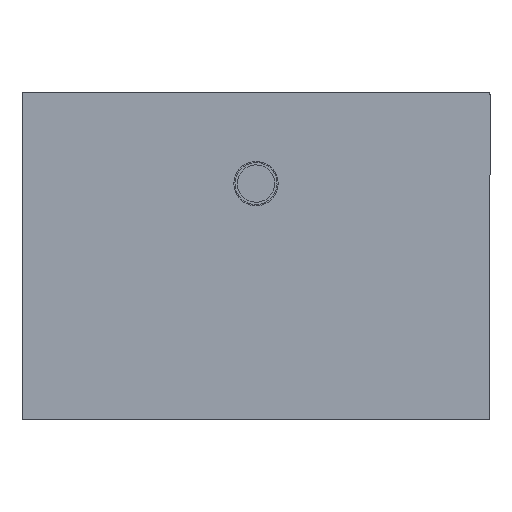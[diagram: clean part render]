
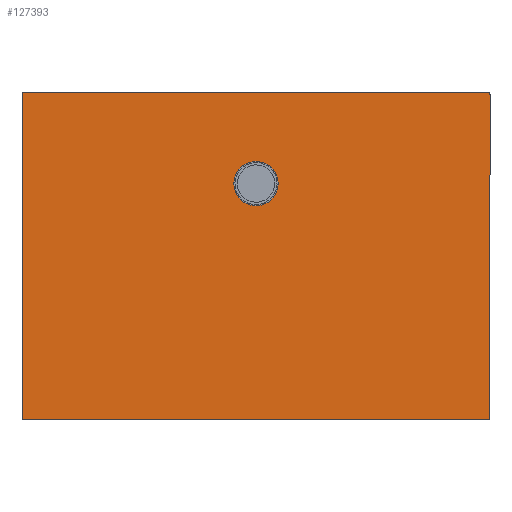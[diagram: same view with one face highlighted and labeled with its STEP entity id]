
A CAD part, front view. The second image highlights one B-rep face of the part: STEP entity #127393.
In plain terms, the highlighted planar face has unit normal (0, -1, 0).
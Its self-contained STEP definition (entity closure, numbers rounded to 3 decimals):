
#693 = CARTESIAN_POINT ( 'NONE',  ( 498.628, -40., 195.698 ) ) ;
#1912 = CARTESIAN_POINT ( 'NONE',  ( -500.698, -40., -500.699 ) ) ;
#3926 = EDGE_CURVE ( 'NONE', #33293, #33293, #108171, .T. ) ;
#6076 = CARTESIAN_POINT ( 'NONE',  ( 500.698, -40., -500.699 ) ) ;
#11638 = DIRECTION ( 'NONE',  ( -1., 0., 0. ) ) ;
#16596 = ORIENTED_EDGE ( 'NONE', *, *, #3926, .T. ) ;
#19207 = CARTESIAN_POINT ( 'NONE',  ( -500., -40., 195. ) ) ;
#19894 = DIRECTION ( 'NONE',  ( 0., 0., 1. ) ) ;
#19905 = LINE ( 'NONE', #94735, #45417 ) ;
#21021 = CARTESIAN_POINT ( 'NONE',  ( -495.699, -40., -505.698 ) ) ;
#21973 = VERTEX_POINT ( 'NONE', #107695 ) ;
#23713 = DIRECTION ( 'NONE',  ( 0., 0., 1. ) ) ;
#23964 = CARTESIAN_POINT ( 'NONE',  ( 495.699, -40., 195.698 ) ) ;
#24313 = CARTESIAN_POINT ( 'NONE',  ( -500.698, -40., 195. ) ) ;
#26343 =( BOUNDED_CURVE ( )  B_SPLINE_CURVE ( 3, ( #1912, #129662, #54882, #21021 ),
 .UNSPECIFIED., .F., .T. ) 
 B_SPLINE_CURVE_WITH_KNOTS ( ( 4, 4 ),
 ( 2.356, 3.927 ),
 .UNSPECIFIED. ) 
 CURVE ( )  GEOMETRIC_REPRESENTATION_ITEM ( )  RATIONAL_B_SPLINE_CURVE ( ( 1., 0.805, 0.805, 1. ) ) 
 REPRESENTATION_ITEM ( '' )  );
#26502 = VECTOR ( 'NONE', #11638, 1000. ) ;
#27300 = VECTOR ( 'NONE', #113184, 1000. ) ;
#29127 = FACE_BOUND ( 'NONE', #54286, .T. ) ;
#29734 = LINE ( 'NONE', #116482, #65577 ) ;
#29976 = VERTEX_POINT ( 'NONE', #137494 ) ;
#31188 = VERTEX_POINT ( 'NONE', #109690 ) ;
#31409 = EDGE_CURVE ( 'NONE', #29976, #36640, #29734, .T. ) ;
#32044 = ORIENTED_EDGE ( 'NONE', *, *, #118958, .T. ) ;
#33293 = VERTEX_POINT ( 'NONE', #43190 ) ;
#34190 =( BOUNDED_CURVE ( )  B_SPLINE_CURVE ( 3, ( #53292, #43407, #86437, #65283 ),
 .UNSPECIFIED., .F., .T. ) 
 B_SPLINE_CURVE_WITH_KNOTS ( ( 4, 4 ),
 ( 2.356, 3.927 ),
 .UNSPECIFIED. ) 
 CURVE ( )  GEOMETRIC_REPRESENTATION_ITEM ( )  RATIONAL_B_SPLINE_CURVE ( ( 1., 0.805, 0.805, 1. ) ) 
 REPRESENTATION_ITEM ( '' )  );
#36155 = AXIS2_PLACEMENT_3D ( 'NONE', #58272, #100608, #23713 ) ;
#36640 = VERTEX_POINT ( 'NONE', #52445 ) ;
#40783 =( BOUNDED_CURVE ( )  B_SPLINE_CURVE ( 3, ( #120467, #66162, #111279, #54875 ),
 .UNSPECIFIED., .F., .T. ) 
 B_SPLINE_CURVE_WITH_KNOTS ( ( 4, 4 ),
 ( 2.356, 3.927 ),
 .UNSPECIFIED. ) 
 CURVE ( )  GEOMETRIC_REPRESENTATION_ITEM ( )  RATIONAL_B_SPLINE_CURVE ( ( 1., 0.805, 0.805, 1. ) ) 
 REPRESENTATION_ITEM ( '' )  );
#43083 = DIRECTION ( 'NONE',  ( 1., 0., 0. ) ) ;
#43190 = CARTESIAN_POINT ( 'NONE',  ( 0., -40., 47.5 ) ) ;
#43407 = CARTESIAN_POINT ( 'NONE',  ( 500.698, -40., -503.628 ) ) ;
#43901 = ORIENTED_EDGE ( 'NONE', *, *, #78167, .T. ) ;
#45417 = VECTOR ( 'NONE', #115896, 1000. ) ;
#46861 = EDGE_CURVE ( 'NONE', #118812, #61417, #132944, .T. ) ;
#52445 = CARTESIAN_POINT ( 'NONE',  ( 495.699, -40., 195.698 ) ) ;
#53292 = CARTESIAN_POINT ( 'NONE',  ( 500.698, -40., -500.699 ) ) ;
#53859 = EDGE_CURVE ( 'NONE', #84478, #113267, #34190, .T. ) ;
#54286 = EDGE_LOOP ( 'NONE', ( #16596 ) ) ;
#54875 = CARTESIAN_POINT ( 'NONE',  ( -500.698, -40., 190.699 ) ) ;
#54882 = CARTESIAN_POINT ( 'NONE',  ( -498.628, -40., -505.698 ) ) ;
#58272 = CARTESIAN_POINT ( 'NONE',  ( 0., -40., 0. ) ) ;
#61417 = VERTEX_POINT ( 'NONE', #82570 ) ;
#63520 = CARTESIAN_POINT ( 'NONE',  ( 495.699, -40., -505.698 ) ) ;
#65283 = CARTESIAN_POINT ( 'NONE',  ( 495.699, -40., -505.698 ) ) ;
#65577 = VECTOR ( 'NONE', #43083, 1000. ) ;
#66063 = ORIENTED_EDGE ( 'NONE', *, *, #100090, .F. ) ;
#66162 = CARTESIAN_POINT ( 'NONE',  ( -498.628, -40., 195.698 ) ) ;
#78167 = EDGE_CURVE ( 'NONE', #84478, #31188, #19905, .T. ) ;
#82570 = CARTESIAN_POINT ( 'NONE',  ( -500.698, -40., 190.699 ) ) ;
#84478 = VERTEX_POINT ( 'NONE', #6076 ) ;
#85339 = ORIENTED_EDGE ( 'NONE', *, *, #46861, .F. ) ;
#86437 = CARTESIAN_POINT ( 'NONE',  ( 498.628, -40., -505.698 ) ) ;
#86792 = CARTESIAN_POINT ( 'NONE',  ( 500.698, -40., 193.628 ) ) ;
#93358 = FACE_OUTER_BOUND ( 'NONE', #108060, .T. ) ;
#94735 = CARTESIAN_POINT ( 'NONE',  ( 500.698, -40., 195. ) ) ;
#96355 = EDGE_CURVE ( 'NONE', #118812, #21973, #26343, .T. ) ;
#100090 = EDGE_CURVE ( 'NONE', #113267, #21973, #108320, .T. ) ;
#100608 = DIRECTION ( 'NONE',  ( 0., 1., 0. ) ) ;
#107695 = CARTESIAN_POINT ( 'NONE',  ( -495.699, -40., -505.698 ) ) ;
#108060 = EDGE_LOOP ( 'NONE', ( #85339, #109090, #66063, #133228, #43901, #127728, #109296, #32044 ) ) ;
#108171 = CIRCLE ( 'NONE', #36155, 47.5 ) ;
#108320 = LINE ( 'NONE', #122371, #26502 ) ;
#109090 = ORIENTED_EDGE ( 'NONE', *, *, #96355, .T. ) ;
#109190 = CARTESIAN_POINT ( 'NONE',  ( -500.698, -40., -500.699 ) ) ;
#109296 = ORIENTED_EDGE ( 'NONE', *, *, #31409, .F. ) ;
#109690 = CARTESIAN_POINT ( 'NONE',  ( 500.698, -40., 190.699 ) ) ;
#111279 = CARTESIAN_POINT ( 'NONE',  ( -500.698, -40., 193.628 ) ) ;
#113184 = DIRECTION ( 'NONE',  ( 0., 0., 1. ) ) ;
#113267 = VERTEX_POINT ( 'NONE', #63520 ) ;
#115295 = EDGE_CURVE ( 'NONE', #36640, #31188, #117400, .T. ) ;
#115884 = PLANE ( 'NONE',  #139484 ) ;
#115896 = DIRECTION ( 'NONE',  ( 0., 0., 1. ) ) ;
#116482 = CARTESIAN_POINT ( 'NONE',  ( -500., -40., 195.698 ) ) ;
#117400 =( BOUNDED_CURVE ( )  B_SPLINE_CURVE ( 3, ( #23964, #693, #86792, #129817 ),
 .UNSPECIFIED., .F., .F. ) 
 B_SPLINE_CURVE_WITH_KNOTS ( ( 4, 4 ),
 ( 2.356, 3.927 ),
 .UNSPECIFIED. ) 
 CURVE ( )  GEOMETRIC_REPRESENTATION_ITEM ( )  RATIONAL_B_SPLINE_CURVE ( ( 1., 0.805, 0.805, 1. ) ) 
 REPRESENTATION_ITEM ( '' )  );
#118812 = VERTEX_POINT ( 'NONE', #109190 ) ;
#118958 = EDGE_CURVE ( 'NONE', #29976, #61417, #40783, .T. ) ;
#120467 = CARTESIAN_POINT ( 'NONE',  ( -495.699, -40., 195.698 ) ) ;
#122371 = CARTESIAN_POINT ( 'NONE',  ( -500., -40., -505.698 ) ) ;
#125101 = DIRECTION ( 'NONE',  ( 0., 1., 0. ) ) ;
#127393 = ADVANCED_FACE ( 'NONE', ( #29127, #93358 ), #115884, .F. ) ;
#127728 = ORIENTED_EDGE ( 'NONE', *, *, #115295, .F. ) ;
#129662 = CARTESIAN_POINT ( 'NONE',  ( -500.698, -40., -503.628 ) ) ;
#129817 = CARTESIAN_POINT ( 'NONE',  ( 500.698, -40., 190.699 ) ) ;
#132944 = LINE ( 'NONE', #24313, #27300 ) ;
#133228 = ORIENTED_EDGE ( 'NONE', *, *, #53859, .F. ) ;
#137494 = CARTESIAN_POINT ( 'NONE',  ( -495.699, -40., 195.698 ) ) ;
#139484 = AXIS2_PLACEMENT_3D ( 'NONE', #19207, #125101, #19894 ) ;
